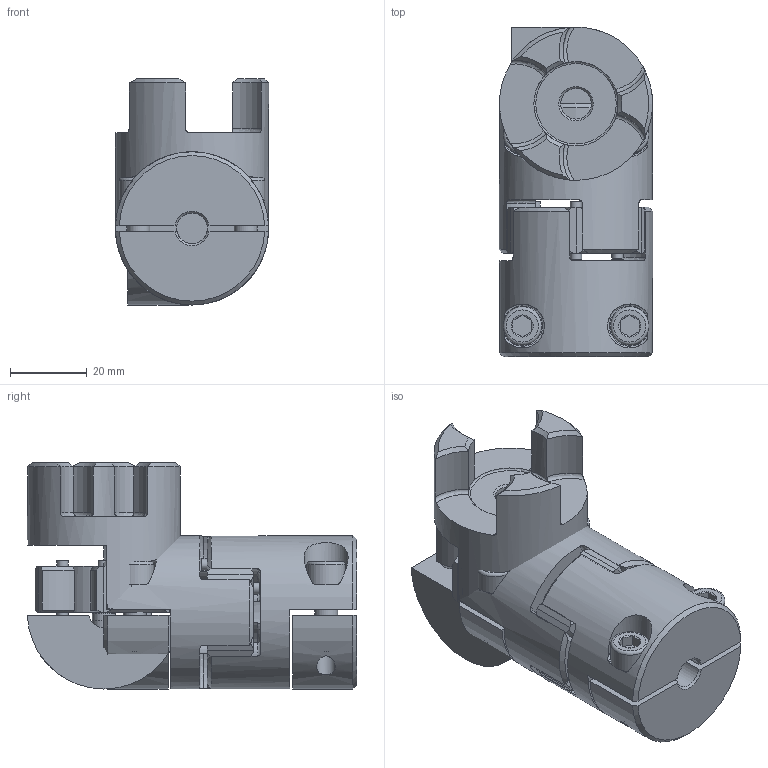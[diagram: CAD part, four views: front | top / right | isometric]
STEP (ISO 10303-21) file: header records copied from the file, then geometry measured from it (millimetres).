
FILE_DESCRIPTION( ( 'Unknown' ), '1' );
FILE_NAME( 'C:/Dokumente und Einstellungen/Sven/Desktop/homepage/cad - homepage/KBE2H/KBE 2H - 19.stp', 'Unknown', ( 'Unknown' ), ( 'Unknown' ), 'XStep 1.0', 'Unknown', ' ' );
FILE_SCHEMA( ( 'automotive_design' ) );
Length unit declared in the file: millimetre
Products named in the file (7): Assem1; KBE 2H - 19_Nabe; KBE 2H - 19_Nabe-oa0; Zahnkranz_19; ISO EN DIN 4762 M6x18; KBE 2H - 19_Klemme; KBE 2H - 19_Klemme-oa1
Bounding box: 40 x 86 x 59 mm (x, y, z)
Volume: 137387.8 mm3; surface area: 54003.5 mm2
Topology: 15 solids, 15 shells, 525 faces, 1207 edges, 752 vertices
Faces by surface type: plane 172, cone 155, cylinder 148, torus 50
Full cylindrical faces by diameter (mm): 3 x12, 4.917 x8, 5 x5, 6 x10, 6.5 x8, 8 x4, 10 x5, 18 x4, 40 x4
Entity records: 7900 total; most frequent: CARTESIAN_POINT 2139, DIRECTION 1070, ORIENTED_EDGE 994, EDGE_CURVE 497, AXIS2_PLACEMENT_3D 472, VERTEX_POINT 333, EDGE_LOOP 294, FACE_OUTER_BOUND 255
